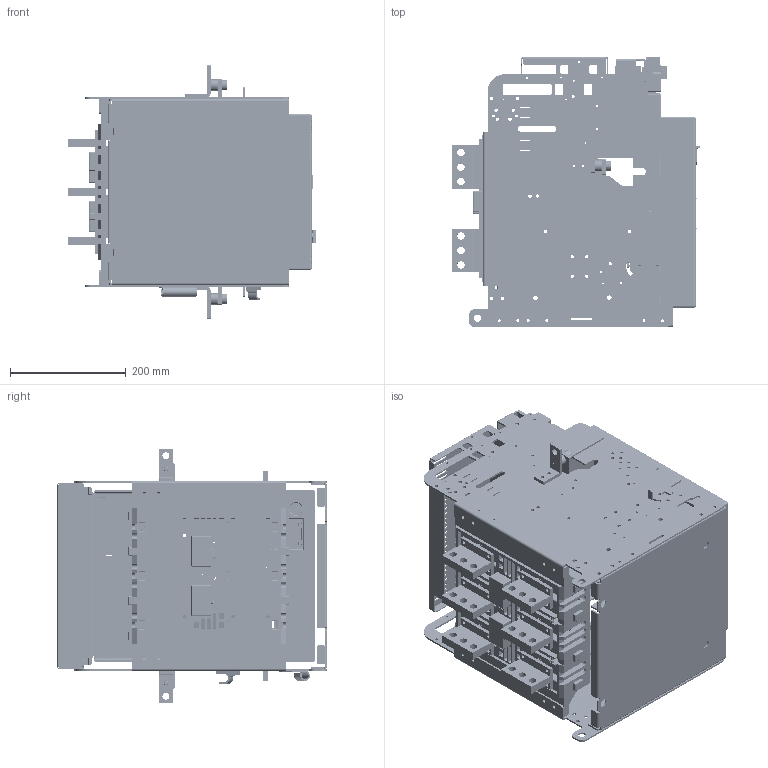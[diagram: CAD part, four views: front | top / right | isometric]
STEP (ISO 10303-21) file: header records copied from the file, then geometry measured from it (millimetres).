
FILE_DESCRIPTION((''),'2;1');
FILE_NAME('A203V_ASM','2017-01-31T',('HHI'),(''),'PRO/ENGINEER BY PARAMETRIC TECHNOLOGY CORPORATION, 2012453','PRO/ENGINEER BY PARAMETRIC TECHNOLOGY CORPORATION, 2012453','');
FILE_SCHEMA(('CONFIG_CONTROL_DESIGN'));
Products named in the file (33): MAIN_SC-DR-FRAME_L; MAIN_SC_DR_BASE_203; MAIN_SC-DR-FRAME_R; SC_TERMINAL_MOLD203; SC_CO_JACK_DFC_203; MAIN_SC-CONTROL_JACK-CRADLE; ACB-HIAN-REDRAW-BODY_SC_CONTROL; TERMINAL_A20V; SC_CONTROL_JACK; SC_MAIN_FRONT_COVER20120324; SC_DR_DEVICE_COVER2; SC_DR_LOCK_PUSH_BUTTON; SC_MANUAL_POSITION_LOCK; SC-DR-INDICATOR_SAMPLE; DR_COVER_SAMPLE_ASM; MAIN_SC-OCR-COVER-U-DD-RE; MAIN_SC-OCR-PROTECTION-COVER-RE; MAIN_SC-OCR-LOWER-COVER-RE; OCR_COVER_SAMPLE_ASM; SC-CLOSE-BUTTON; SC-OPEN-BUTTON; N_CHARGE_HANDLE; COVER203_ASSY_ASM; U_ARC_SHIELD_203; SC-FIX-BLOCK-L; FIX_BODY_EXTRA; FIX_BLOCK_CRADLE; BOLT; FIX_BODY_ASM_L_ASM; SC-FIX-BLOCK-R; SC-FIX-BLOCK-SUP-R; FIX_BODY_ASM_R_ASM; A203V_ASM
Assembly tree (39 placements, depth 4):
  A203V_ASM
    MAIN_SC-DR-FRAME_L
    MAIN_SC_DR_BASE_203
    MAIN_SC-DR-FRAME_R
    SC_TERMINAL_MOLD203
    SC_CO_JACK_DFC_203
    MAIN_SC-CONTROL_JACK-CRADLE
    ACB-HIAN-REDRAW-BODY_SC_CONTROL
    TERMINAL_A20V  x6
    COVER203_ASSY_ASM
      SC_CONTROL_JACK
      SC_MAIN_FRONT_COVER20120324
      DR_COVER_SAMPLE_ASM
        SC_DR_DEVICE_COVER2
        SC_DR_LOCK_PUSH_BUTTON
        SC_MANUAL_POSITION_LOCK
        SC-DR-INDICATOR_SAMPLE
      OCR_COVER_SAMPLE_ASM
        MAIN_SC-OCR-COVER-U-DD-RE
        MAIN_SC-OCR-PROTECTION-COVER-RE
        MAIN_SC-OCR-LOWER-COVER-RE
      SC-CLOSE-BUTTON
      SC-OPEN-BUTTON
      N_CHARGE_HANDLE
    U_ARC_SHIELD_203
    FIX_BODY_ASM_L_ASM
      SC-FIX-BLOCK-L
      FIX_BODY_EXTRA
      FIX_BLOCK_CRADLE
      BOLT
    FIX_BODY_ASM_R_ASM
      SC-FIX-BLOCK-R
      SC-FIX-BLOCK-SUP-R
      FIX_BLOCK_CRADLE
      BOLT
Bounding box: 428.03 x 466.35 x 440.1 mm (x, y, z)
Volume: 4451905.8 mm3; surface area: 2875726.9 mm2
Topology: 36 solids, 36 shells, 13384 faces, 39234 edges, 25673 vertices
Faces by surface type: plane 10647, cylinder 2241, extrusion 181, torus 162, sphere 60, bspline 56, cone 37
Entity records: 443107 total; most frequent: CARTESIAN_POINT 86365, ORIENTED_EDGE 77432, DIRECTION 68918, EDGE_CURVE 38716, VECTOR 33604, LINE 33423, VERTEX_POINT 25341, AXIS2_PLACEMENT_3D 17657
